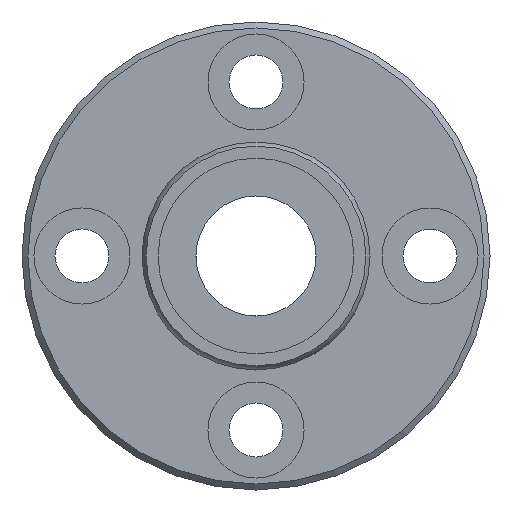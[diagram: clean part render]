
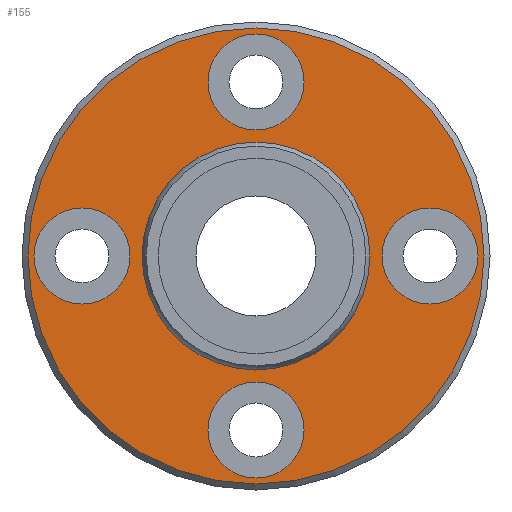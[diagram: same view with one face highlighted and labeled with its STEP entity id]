
A CAD part, left-side view. The second image highlights one B-rep face of the part: STEP entity #155.
In plain terms, the highlighted planar face has unit normal (-1, 0, 0).
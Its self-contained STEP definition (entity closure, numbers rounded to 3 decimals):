
#60=CARTESIAN_POINT('',(24.5,0.,19.0));
#61=VERTEX_POINT('',#60);
#62=CARTESIAN_POINT('',(24.5,0.0,0.0));
#63=DIRECTION('',(1.0,0.0,0.0));
#64=DIRECTION('',(0.0,0.0,-1.0));
#65=AXIS2_PLACEMENT_3D('',#62,#63,#64);
#66=CIRCLE('',#65,19.0);
#67=EDGE_CURVE('',#61,#61,#66,.T.);
#92=CARTESIAN_POINT('',(24.5,0.0,14.393));
#93=DIRECTION('',(-1.0,0.0,0.0));
#94=DIRECTION('',(0.0,0.0,1.0));
#95=AXIS2_PLACEMENT_3D('',#92,#93,#94);
#96=PLANE('',#95);
#97=ORIENTED_EDGE('',*,*,#67,.F.);
#98=EDGE_LOOP('',(#97));
#99=FACE_OUTER_BOUND('',#98,.T.);
#100=CARTESIAN_POINT('',(24.5,0.0,9.286));
#101=VERTEX_POINT('',#100);
#102=CARTESIAN_POINT('',(24.5,0.0,0.0));
#103=DIRECTION('',(-1.0,0.0,0.0));
#104=DIRECTION('',(0.0,0.0,1.0));
#105=AXIS2_PLACEMENT_3D('',#102,#103,#104);
#106=CIRCLE('',#105,9.286);
#107=EDGE_CURVE('',#101,#101,#106,.T.);
#108=ORIENTED_EDGE('',*,*,#107,.F.);
#109=EDGE_LOOP('',(#108));
#110=FACE_BOUND('',#109,.T.);
#111=CARTESIAN_POINT('',(24.5,-10.5,0.));
#112=VERTEX_POINT('',#111);
#113=CARTESIAN_POINT('',(24.5,-14.5,0.));
#114=DIRECTION('',(1.0,0.0,0.0));
#115=DIRECTION('',(0.0,1.0,0.0));
#116=AXIS2_PLACEMENT_3D('',#113,#114,#115);
#117=CIRCLE('',#116,4.0);
#118=EDGE_CURVE('',#112,#112,#117,.T.);
#119=ORIENTED_EDGE('',*,*,#118,.T.);
#120=EDGE_LOOP('',(#119));
#121=FACE_BOUND('',#120,.T.);
#122=CARTESIAN_POINT('',(24.5,18.5,0.));
#123=VERTEX_POINT('',#122);
#124=CARTESIAN_POINT('',(24.5,14.5,0.));
#125=DIRECTION('',(1.0,0.0,0.0));
#126=DIRECTION('',(0.0,1.0,0.0));
#127=AXIS2_PLACEMENT_3D('',#124,#125,#126);
#128=CIRCLE('',#127,4.0);
#129=EDGE_CURVE('',#123,#123,#128,.T.);
#130=ORIENTED_EDGE('',*,*,#129,.T.);
#131=EDGE_LOOP('',(#130));
#132=FACE_BOUND('',#131,.T.);
#133=CARTESIAN_POINT('',(24.5,4.,14.5));
#134=VERTEX_POINT('',#133);
#135=CARTESIAN_POINT('',(24.5,0.,14.5));
#136=DIRECTION('',(1.0,0.0,0.0));
#137=DIRECTION('',(0.0,1.0,0.0));
#138=AXIS2_PLACEMENT_3D('',#135,#136,#137);
#139=CIRCLE('',#138,4.0);
#140=EDGE_CURVE('',#134,#134,#139,.T.);
#141=ORIENTED_EDGE('',*,*,#140,.T.);
#142=EDGE_LOOP('',(#141));
#143=FACE_BOUND('',#142,.T.);
#144=CARTESIAN_POINT('',(24.5,4.,-14.5));
#145=VERTEX_POINT('',#144);
#146=CARTESIAN_POINT('',(24.5,0.,-14.5));
#147=DIRECTION('',(1.0,0.0,0.0));
#148=DIRECTION('',(0.0,1.0,0.0));
#149=AXIS2_PLACEMENT_3D('',#146,#147,#148);
#150=CIRCLE('',#149,4.0);
#151=EDGE_CURVE('',#145,#145,#150,.T.);
#152=ORIENTED_EDGE('',*,*,#151,.T.);
#153=EDGE_LOOP('',(#152));
#154=FACE_BOUND('',#153,.T.);
#155=ADVANCED_FACE('',(#99,#110,#121,#132,#143,#154),#96,.T.);
